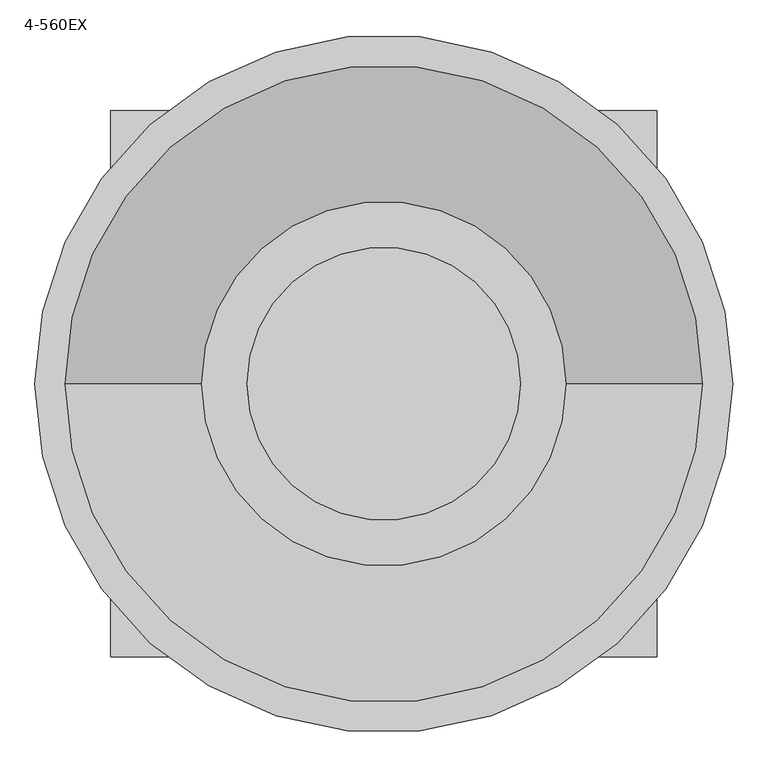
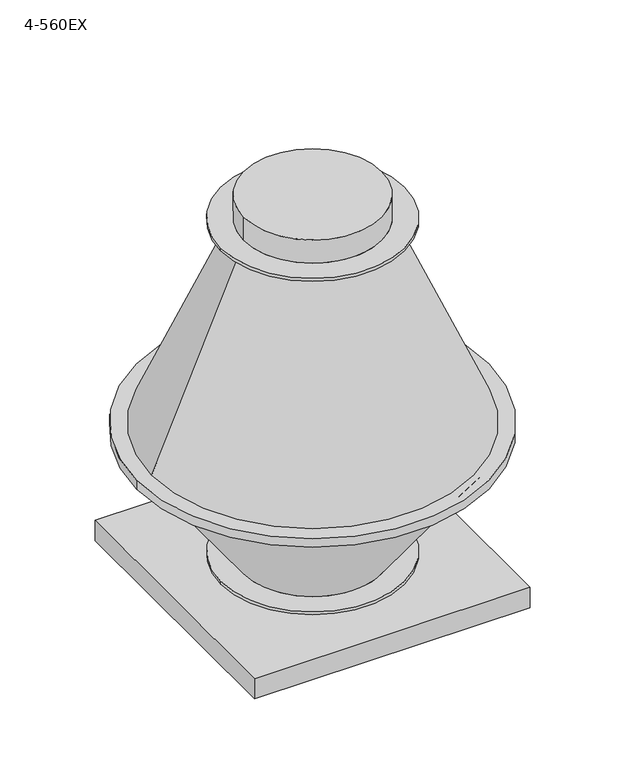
"""IFC4 building model written with IfcOpenShell, lengths in millimetres: unitary equipment geometry, VE-Wentylator-ParaForma-Harmann-VITT_EX-Wywiewny : 4-560EX."""

from ifc_helpers import new_model, si_unit, point, frame, origin, origin_2d, place, context, project, spatial, polyline, circle_curve, trimmed, segment, composite_curve, outline, extrude, faceted_brep, source, transform, mapped, element, save
from ifc_brep_helpers import plane_surface, cylinder_surface, revolved_surface, advanced_brep


def unitary_equipment_4_560ex_64ff254f(model_context):
    return source(origin(), model_context, "Body", "SolidModel", [
        advanced_brep(
        [(-300.0, 0.0, 25.0), (300.0, 0.0, 25.0), (-300.0, 0.0, 35.0), (300.0, 0.0, 35.0), (225.0, 0.0, 35.0), (-225.0, 0.0, 35.0), (-525.0, 0.0, 450.0), (525.0, 0.0, 450.0)],
        [
            (0, 1, circle_curve(frame((0.0, 0.0, 25.0), z_axis=(0.0, 0.0, -1.0), x_axis=(1.0, 0.0, 0.0)), 300.0)),
            (1, 0, circle_curve(frame((0.0, 0.0, 25.0), z_axis=(0.0, 0.0, -1.0), x_axis=(1.0, 0.0, 0.0)), 300.0)),
            (2, 3, circle_curve(frame((0.0, 0.0, 35.0), z_axis=(0.0, 0.0, 1.0), x_axis=(1.0, 0.0, 0.0)), 300.0)),
            (3, 2, circle_curve(frame((0.0, 0.0, 35.0), z_axis=(0.0, 0.0, 1.0), x_axis=(1.0, 0.0, 0.0)), 300.0)),
            (4, 5, circle_curve(frame((0.0, 0.0, 35.0), z_axis=(0.0, 0.0, -1.0), x_axis=(-1.0, 0.0, 0.0)), 225.0)),
            (5, 4, circle_curve(frame((0.0, 0.0, 35.0), z_axis=(0.0, 0.0, -1.0), x_axis=(1.0, 0.0, 0.0)), 225.0)),
            (6, 7, circle_curve(frame((0.0, 0.0, 450.0), z_axis=(0.0, 0.0, 1.0), x_axis=(-1.0, 0.0, 0.0)), 525.0)),
            (7, 6, circle_curve(frame((0.0, 0.0, 450.0), z_axis=(0.0, 0.0, 1.0), x_axis=(1.0, 0.0, 0.0)), 525.0)),
            (6, 5),
            (4, 7),
            (0, 2),
            (3, 1),
        ],
        [
            plane_surface(frame((0.0, 0.0, 25.0), z_axis=(0.0, 0.0, -1.0), x_axis=(0.0, 1.0, 0.0))),
            plane_surface(frame((0.0, 0.0, 35.0), z_axis=(0.0, 0.0, 1.0), x_axis=(0.0, 1.0, 0.0))),
            plane_surface(frame((0.0, 0.0, 450.0), z_axis=(0.0, 0.0, 1.0), x_axis=(0.0, -1.0, 0.0))),
            revolved_surface(polyline([(225.0, 0.0, 35.0), (525.0, 0.0, 450.0)]), (0.0, 0.0, -276.25), (0.0, 0.0, 1.0)),
            revolved_surface(polyline([(-225.0, 0.0, 35.0), (-525.0, 0.0, 450.0)]), (0.0, 0.0, -276.25), (0.0, 0.0, 1.0)),
            cylinder_surface(frame((0.0, 0.0, 25.0), z_axis=(0.0, 0.0, -1.0), x_axis=(1.0, 0.0, 0.0)), 300.0),
        ],
        [
            (0, [[1, 2]]),
            (1, [[3, 4], [5, 6]]),
            (2, [[7, 8]]),
            (3, [[-7, 9, -5, 10]]),
            (4, [[-8, -10, -6, -9]]),
            (5, [[-1, 11, -4, 12]]),
            (5, [[-2, -12, -3, -11]]),
        ],
    ),
        advanced_brep(
        [(-525.0, 0.0, 480.0), (525.0, 0.0, 480.0), (225.0, 0.0, 1175.0), (-225.0, 0.0, 1175.0), (-300.0, 0.0, 1175.0), (300.0, 0.0, 1175.0), (-300.0, 0.0, 1185.0), (300.0, 0.0, 1185.0), (-225.0, 0.0, 1185.0), (225.0, 0.0, 1185.0), (-225.0, 0.0, 1265.0), (225.0, 0.0, 1265.0)],
        [
            (0, 1, circle_curve(frame((0.0, 0.0, 480.0), z_axis=(0.0, 0.0, -1.0), x_axis=(1.0, 0.0, 0.0)), 525.0)),
            (1, 0, circle_curve(frame((0.0, 0.0, 480.0), z_axis=(0.0, 0.0, -1.0), x_axis=(-1.0, 0.0, 0.0)), 525.0)),
            (1, 2),
            (2, 3, circle_curve(frame((0.0, 0.0, 1175.0), z_axis=(0.0, 0.0, -1.0), x_axis=(-1.0, 0.0, 0.0)), 225.0)),
            (3, 0),
            (3, 2, circle_curve(frame((0.0, 0.0, 1175.0), z_axis=(0.0, 0.0, -1.0), x_axis=(1.0, 0.0, 0.0)), 225.0)),
            (4, 5, circle_curve(frame((0.0, 0.0, 1175.0), z_axis=(0.0, 0.0, -1.0), x_axis=(1.0, 0.0, 0.0)), 300.0)),
            (5, 4, circle_curve(frame((0.0, 0.0, 1175.0), z_axis=(0.0, 0.0, -1.0), x_axis=(1.0, 0.0, 0.0)), 300.0)),
            (6, 7, circle_curve(frame((0.0, 0.0, 1185.0), z_axis=(0.0, 0.0, 1.0), x_axis=(1.0, 0.0, 0.0)), 300.0)),
            (7, 6, circle_curve(frame((0.0, 0.0, 1185.0), z_axis=(0.0, 0.0, 1.0), x_axis=(1.0, 0.0, 0.0)), 300.0)),
            (8, 9, circle_curve(frame((0.0, 0.0, 1185.0), z_axis=(0.0, 0.0, -1.0), x_axis=(1.0, 0.0, 0.0)), 225.0)),
            (9, 8, circle_curve(frame((0.0, 0.0, 1185.0), z_axis=(0.0, 0.0, -1.0), x_axis=(1.0, 0.0, 0.0)), 225.0)),
            (4, 6),
            (7, 5),
            (10, 11, circle_curve(frame((0.0, 0.0, 1265.0), z_axis=(0.0, 0.0, 1.0), x_axis=(1.0, 0.0, 0.0)), 225.0)),
            (11, 10, circle_curve(frame((0.0, 0.0, 1265.0), z_axis=(0.0, 0.0, 1.0), x_axis=(1.0, 0.0, 0.0)), 225.0)),
            (11, 9),
            (8, 10),
        ],
        [
            plane_surface(frame((0.0, 0.0, 480.0), z_axis=(0.0, 0.0, -1.0), x_axis=(0.0, -1.0, 0.0))),
            revolved_surface(polyline([(-225.0, 0.0, 1175.0), (-525.0, 0.0, 480.0)]), (0.0, 0.0, 1696.25), (0.0, 0.0, -1.0)),
            revolved_surface(polyline([(225.0, 0.0, 1175.0), (525.0, 0.0, 480.0)]), (0.0, 0.0, 1696.25), (0.0, 0.0, -1.0)),
            plane_surface(frame((0.0, 0.0, 1175.0), z_axis=(0.0, 0.0, -1.0), x_axis=(0.0, 1.0, 0.0))),
            plane_surface(frame((0.0, 0.0, 1185.0), z_axis=(0.0, 0.0, 1.0), x_axis=(0.0, 1.0, 0.0))),
            cylinder_surface(frame((0.0, 0.0, 1175.0), z_axis=(0.0, 0.0, -1.0), x_axis=(1.0, 0.0, 0.0)), 300.0),
            plane_surface(frame((0.0, 0.0, 1265.0), z_axis=(0.0, 0.0, 1.0), x_axis=(0.0, 1.0, 0.0))),
            cylinder_surface(frame((0.0, 0.0, 1185.0), z_axis=(0.0, 0.0, -1.0), x_axis=(1.0, 0.0, 0.0)), 225.0),
        ],
        [
            (0, [[1, 2]]),
            (1, [[-2, 3, 4, 5]]),
            (2, [[-1, -5, 6, -3]]),
            (3, [[7, 8], [-4, -6]]),
            (4, [[9, 10], [11, 12]]),
            (5, [[-7, 13, -10, 14]]),
            (5, [[-8, -14, -9, -13]]),
            (6, [[15, 16]]),
            (7, [[-16, 17, -11, 18]]),
            (7, [[-15, -18, -12, -17]]),
        ],
    ),
        faceted_brep([(425.0, -425.0, -45.0), (425.0, -425.0, 0.0), (425.0, 425.0, 0.0), (425.0, 425.0, -45.0), (450.0, -450.0, 25.0), (450.0, -450.0, -45.0), (450.0, 450.0, -45.0), (450.0, 450.0, 25.0), (-425.0, 425.0, 0.0), (-425.0, 425.0, -45.0), (-450.0, 450.0, -45.0), (-450.0, 450.0, 25.0), (-425.0, -425.0, 0.0), (-425.0, -425.0, -45.0), (-450.0, -450.0, -45.0), (-450.0, -450.0, 25.0)], [[[0, 1, 2, 3]], [[4, 5, 6, 7]], [[3, 2, 8, 9]], [[7, 6, 10, 11]], [[9, 8, 12, 13]], [[11, 10, 14, 15]], [[7, 11, 15, 4]], [[1, 12, 8, 2]], [[13, 12, 1, 0]], [[5, 14, 10, 6], [3, 9, 13, 0]], [[15, 14, 5, 4]]]),
        extrude(outline(composite_curve([segment(trimmed(circle_curve(origin_2d(), 575.0), [point((-575.0, 0.0))], [point((575.0, 0.0))], False, "CARTESIAN"), True, "CONTINUOUS"), segment(trimmed(circle_curve(origin_2d(), 575.0), [point((575.0, 0.0))], [point((-575.0, 0.0))], False, "CARTESIAN"), True, "CONTINUOUS")], self_intersect=False)), frame((0.0, 0.0, 450.0), z_axis=(0.0, 0.0, 1.0), x_axis=(1.0, 0.0, 0.0)), (0.0, 0.0, 1.0), 30.0),
    ])


if __name__ == "__main__":
    model = new_model("IFC4")
    model_context = context("Model", 3, world=origin())
    ifc_project = project(units=[si_unit("LENGTHUNIT", "METRE", prefix="MILLI")], contexts=[model_context])
    site = spatial("IfcSite", under=ifc_project)
    building = spatial("IfcBuilding", under=site)
    placement = place(None, origin())
    unitary_equipment_4_560ex_shape = unitary_equipment_4_560ex_64ff254f(model_context)
    element("IfcUnitaryEquipment", 1, ObjectType="VE-Wentylator-ParaForma-Harmann-VITT_EX-Wywiewny : 4-560EX", at=placement, inside=building, context=model_context, shape_type="MappedRepresentation", body=[
        mapped(unitary_equipment_4_560ex_shape, transform((0.0, 0.0, 0.0), x_axis=(1.0, 0.0, 0.0), y_axis=(0.0, 1.0, 0.0), z_axis=(0.0, 0.0, 1.0))),
    ])
    save(model, "model.ifc")
